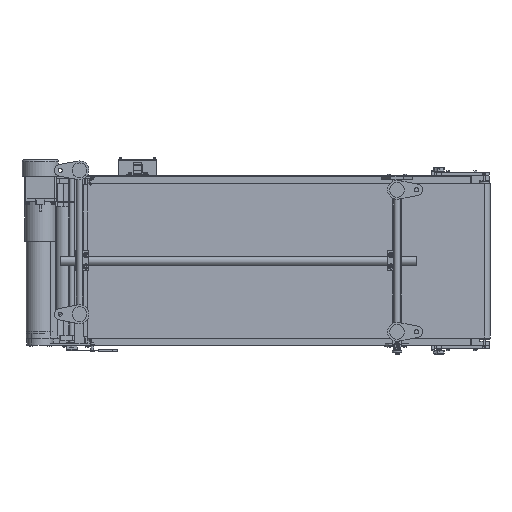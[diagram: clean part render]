
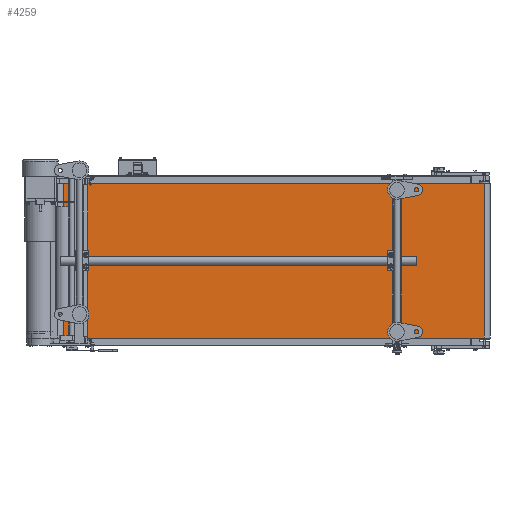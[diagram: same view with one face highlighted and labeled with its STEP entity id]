
A CAD part, front view. The second image highlights one B-rep face of the part: STEP entity #4259.
In plain terms, the highlighted planar face has unit normal (0.006, -1, 0).
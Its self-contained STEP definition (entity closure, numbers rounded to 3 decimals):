
#4259=ADVANCED_FACE('',(#18441),#18440,.F.);
#18440=PLANE('',#33933);
#18441=FACE_OUTER_BOUND('',#33934,.T.);
#33930=CARTESIAN_POINT('',(1493.141,-32.944,-260.));
#33931=DIRECTION('',(-0.006,1.,0.));
#33932=DIRECTION('',(-1.,-0.006,0.));
#33933=AXIS2_PLACEMENT_3D('',#33930,#33931,#33932);
#33934=EDGE_LOOP('',(#44882,#44883,#44884,#44885));
#44882=ORIENTED_EDGE('',*,*,#51179,.T.);
#44883=ORIENTED_EDGE('',*,*,#51182,.F.);
#44884=ORIENTED_EDGE('',*,*,#51175,.F.);
#44885=ORIENTED_EDGE('',*,*,#51183,.T.);
#51175=EDGE_CURVE('',#73440,#73447,#73448,.T.);
#51179=EDGE_CURVE('',#73474,#73467,#73475,.T.);
#51182=EDGE_CURVE('',#73447,#73467,#73494,.T.);
#51183=EDGE_CURVE('',#73440,#73474,#73500,.T.);
#73440=VERTEX_POINT('',#96939);
#73447=VERTEX_POINT('',#96944);
#73448=LINE('',#96945,#96946);
#73467=VERTEX_POINT('',#96957);
#73474=VERTEX_POINT('',#96962);
#73475=LINE('',#96963,#96964);
#73494=LINE('',#96974,#96975);
#73500=LINE('',#96977,#96978);
#96939=CARTESIAN_POINT('',(119.585,-40.575,250.));
#96944=CARTESIAN_POINT('',(1483.141,-33.,250.));
#96945=CARTESIAN_POINT('',(119.585,-40.575,250.));
#96946=VECTOR('',#96947,1363.577);
#96947=DIRECTION('',(1.,0.006,0.));
#96957=CARTESIAN_POINT('',(1483.141,-33.,-250.));
#96962=CARTESIAN_POINT('',(119.585,-40.575,-250.));
#96963=CARTESIAN_POINT('',(119.585,-40.575,-250.));
#96964=VECTOR('',#96965,1363.577);
#96965=DIRECTION('',(1.,0.006,0.));
#96974=CARTESIAN_POINT('',(1483.141,-33.,250.));
#96975=VECTOR('',#96976,500.);
#96976=DIRECTION('',(0.,0.,-1.));
#96977=CARTESIAN_POINT('',(119.585,-40.575,250.));
#96978=VECTOR('',#96979,500.);
#96979=DIRECTION('',(0.,0.,-1.));
